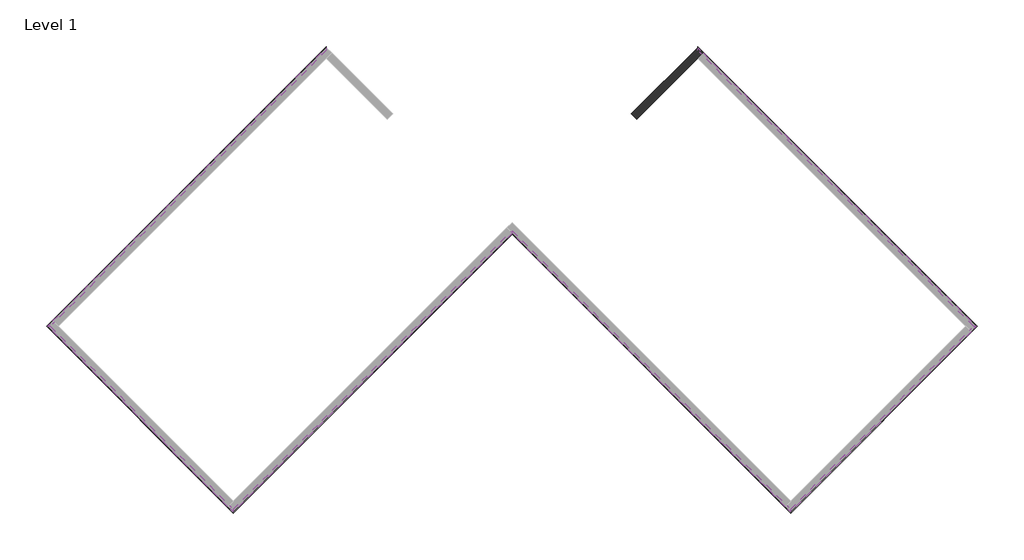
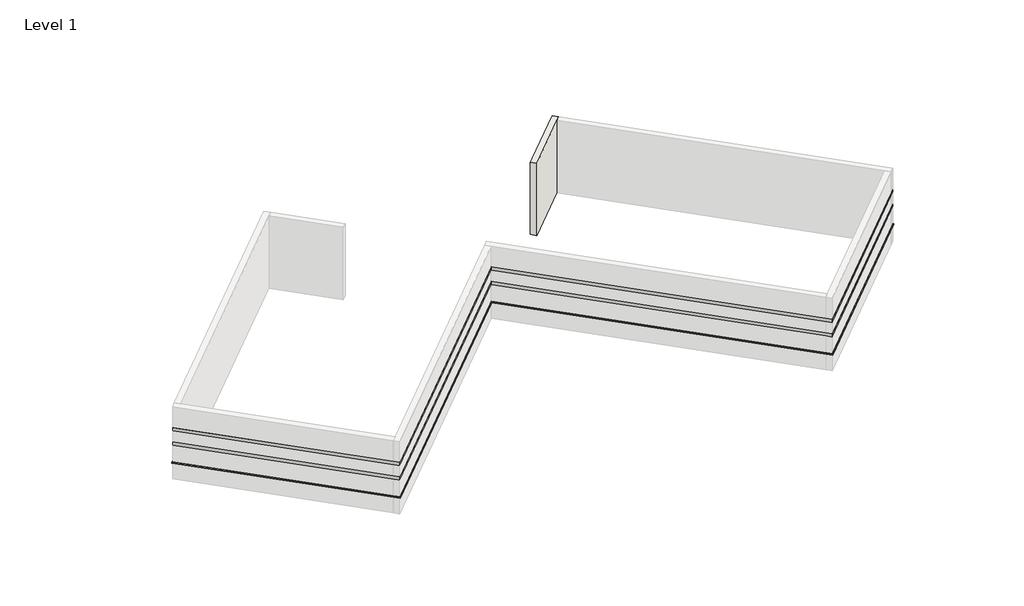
# One storey, part 2 of 2: 18 proxies, 1 wall.
"""IFC4 building model written with IfcOpenShell, lengths in millimetres."""

from ifc_helpers import new_model, si_unit, frame, origin, place, context, project, spatial, polyline, circle_curve, faceted_brep, element, save
from ifc_brep_helpers import plane_surface, cylinder_surface, revolved_surface, advanced_brep

model = new_model("IFC4")

# Units and contexts
model_context = context("Model", 3, world=origin())
ifc_project = project(units=[si_unit("LENGTHUNIT", "METRE", prefix="MILLI")], contexts=[model_context])

# Site, building, storey
site = spatial("IfcSite", under=ifc_project)
building = spatial("IfcBuilding", under=site)
storey = spatial("IfcBuildingStorey", under=building, Name="Level 1", Elevation=0.0)

# Proxies
placement = place(None, origin())
element("IfcBuildingElementProxy", 1, Name="Wall Sweeps", at=placement, inside=storey, context=model_context, shape_type="Brep", body=[
    faceted_brep([(5753.0175119, 11443.3655905, 1085.85), (5753.0175119, 11573.5793042, 1085.85), (5753.0175119, 11622.9707129, 1041.4), (5753.0175119, 11622.9707129, 1016.0), (5753.0175119, 11443.3655905, 1016.0), (18554.3726125, -1357.9895101, 1085.85), (18554.3726125, -1357.9895101, 1016.0), (18733.9777349, -1357.9895101, 1016.0), (18733.9777349, -1357.9895101, 1041.4), (18684.5863263, -1357.9895101, 1085.85), (5937.1127624, 11259.27034, 1085.85), (5937.1127624, 11259.27034, 1016.0)], [[[0, 1, 2, 3, 4]], [[5, 6, 7, 8, 9]], [[1, 0, 10, 5, 9]], [[2, 1, 9, 8]], [[3, 2, 8, 7]], [[4, 3, 7, 6, 11]], [[0, 4, 11, 6, 5, 10]]]),
])
element("IfcBuildingElementProxy", 2, Name="Wall Sweeps", at=placement, inside=storey, context=model_context, shape_type="Brep", body=[
    faceted_brep([(5753.0175119, 11573.5793042, 2336.8), (5753.0175119, 11573.5793042, 2133.6), (5753.0175119, 11443.3655905, 2133.6), (5753.0175119, 11443.3655905, 2336.8), (18684.5863263, -1357.9895101, 2336.8), (18554.3726125, -1357.9895101, 2336.8), (18554.3726125, -1357.9895101, 2133.6), (18684.5863263, -1357.9895101, 2133.6), (6002.2196193, 11324.3771969, 2336.8), (6002.2196193, 11324.3771969, 2133.6), (5937.1127624, 11259.27034, 2133.6), (5937.1127624, 11259.27034, 2336.8)], [[[0, 1, 2, 3]], [[4, 5, 6, 7]], [[1, 0, 8, 4, 7, 9]], [[2, 1, 9, 7, 6, 10]], [[3, 2, 10, 6, 5, 11]], [[0, 3, 11, 5, 4, 8]]]),
])
element("IfcBuildingElementProxy", 3, Name="Wall Sweeps", at=placement, inside=storey, context=model_context, shape_type="Brep", body=[
    faceted_brep([(5753.0175119, 11573.5793042, 3251.2), (5753.0175119, 11573.5793042, 3048.0), (5753.0175119, 11443.3655905, 3048.0), (5753.0175119, 11443.3655905, 3251.2), (18684.5863263, -1357.9895101, 3251.2), (18554.3726125, -1357.9895101, 3251.2), (18554.3726125, -1357.9895101, 3048.0), (18684.5863263, -1357.9895101, 3048.0), (6002.2196193, 11324.3771969, 3251.2), (6002.2196193, 11324.3771969, 3048.0), (5937.1127624, 11259.27034, 3048.0), (5937.1127624, 11259.27034, 3251.2)], [[[0, 1, 2, 3]], [[4, 5, 6, 7]], [[1, 0, 8, 4, 7, 9]], [[2, 1, 9, 7, 6, 10]], [[3, 2, 10, 6, 5, 11]], [[0, 3, 11, 5, 4, 8]]]),
])
element("IfcBuildingElementProxy", 4, Name="Wall Sweeps", at=placement, inside=storey, context=model_context, shape_type="Brep", body=[
    faceted_brep([(18554.3726125, -1357.9895101, 1085.85), (18684.5863263, -1357.9895101, 1085.85), (18733.9777349, -1357.9895101, 1041.4), (18733.9777349, -1357.9895101, 1016.0), (18554.3726125, -1357.9895101, 1016.0), (10063.54045, -9848.8216726, 1085.85), (10063.54045, -9848.8216726, 1016.0), (10063.54045, -10028.426795, 1016.0), (10063.54045, -10028.426795, 1041.4), (10063.54045, -9979.0353863, 1085.85), (18370.277362, -1542.0847606, 1085.85), (18370.277362, -1542.0847606, 1016.0)], [[[0, 1, 2, 3, 4]], [[5, 6, 7, 8, 9]], [[1, 0, 10, 5, 9]], [[2, 1, 9, 8]], [[3, 2, 8, 7]], [[4, 3, 7, 6, 11]], [[0, 4, 11, 6, 5, 10]]]),
])
element("IfcBuildingElementProxy", 5, Name="Wall Sweeps", at=placement, inside=storey, context=model_context, shape_type="Brep", body=[
    faceted_brep([(18684.5863263, -1357.9895101, 2336.8), (18684.5863263, -1357.9895101, 2133.6), (18554.3726125, -1357.9895101, 2133.6), (18554.3726125, -1357.9895101, 2336.8), (10063.54045, -9979.0353863, 2336.8), (10063.54045, -9848.8216726, 2336.8), (10063.54045, -9848.8216726, 2133.6), (10063.54045, -9979.0353863, 2133.6), (18435.3842189, -1607.1916175, 2336.8), (18435.3842189, -1607.1916175, 2133.6), (18370.277362, -1542.0847606, 2133.6), (18370.277362, -1542.0847606, 2336.8)], [[[0, 1, 2, 3]], [[4, 5, 6, 7]], [[1, 0, 8, 4, 7, 9]], [[2, 1, 9, 7, 6, 10]], [[3, 2, 10, 6, 5, 11]], [[0, 3, 11, 5, 4, 8]]]),
])
element("IfcBuildingElementProxy", 6, Name="Wall Sweeps", at=placement, inside=storey, context=model_context, shape_type="Brep", body=[
    faceted_brep([(18684.5863263, -1357.9895101, 3251.2), (18684.5863263, -1357.9895101, 3048.0), (18554.3726125, -1357.9895101, 3048.0), (18554.3726125, -1357.9895101, 3251.2), (10063.54045, -9979.0353863, 3251.2), (10063.54045, -9848.8216726, 3251.2), (10063.54045, -9848.8216726, 3048.0), (10063.54045, -9979.0353863, 3048.0), (18435.3842189, -1607.1916175, 3251.2), (18435.3842189, -1607.1916175, 3048.0), (18370.277362, -1542.0847606, 3048.0), (18370.277362, -1542.0847606, 3251.2)], [[[0, 1, 2, 3]], [[4, 5, 6, 7]], [[1, 0, 8, 4, 7, 9]], [[2, 1, 9, 7, 6, 10]], [[3, 2, 10, 6, 5, 11]], [[0, 3, 11, 5, 4, 8]]]),
])
element("IfcBuildingElementProxy", 7, Name="Wall Sweeps", at=placement, inside=storey, context=model_context, shape_type="Brep", body=[
    faceted_brep([(10063.54045, -9848.8216726, 1085.85), (10063.54045, -9979.0353863, 1085.85), (10063.54045, -10028.426795, 1041.4), (10063.54045, -10028.426795, 1016.0), (10063.54045, -9848.8216726, 1016.0), (-2868.0283643, 3082.7471418, 1085.85), (-2868.0283643, 3082.7471418, 1016.0), (-2868.0283643, 2903.1420194, 1016.0), (-2868.0283643, 2903.1420194, 1041.4), (-2868.0283643, 2952.533428, 1085.85), (9879.4451996, -9664.7264221, 1085.85), (9879.4451996, -9664.7264221, 1016.0)], [[[0, 1, 2, 3, 4]], [[5, 6, 7, 8, 9]], [[1, 0, 10, 5, 9]], [[2, 1, 9, 8]], [[3, 2, 8, 7]], [[4, 3, 7, 6, 11]], [[0, 4, 11, 6, 5, 10]]]),
])
element("IfcBuildingElementProxy", 8, Name="Wall Sweeps", at=placement, inside=storey, context=model_context, shape_type="Brep", body=[
    faceted_brep([(10063.54045, -9979.0353863, 2336.8), (10063.54045, -9979.0353863, 2133.6), (10063.54045, -9848.8216726, 2133.6), (10063.54045, -9848.8216726, 2336.8), (-2868.0283643, 2952.533428, 2336.8), (-2868.0283643, 3082.7471418, 2336.8), (-2868.0283643, 3082.7471418, 2133.6), (-2868.0283643, 2952.533428, 2133.6), (9814.3383427, -9729.833279, 2336.8), (9814.3383427, -9729.833279, 2133.6), (9879.4451996, -9664.7264221, 2133.6), (9879.4451996, -9664.7264221, 2336.8)], [[[0, 1, 2, 3]], [[4, 5, 6, 7]], [[1, 0, 8, 4, 7, 9]], [[2, 1, 9, 7, 6, 10]], [[3, 2, 10, 6, 5, 11]], [[0, 3, 11, 5, 4, 8]]]),
])
element("IfcBuildingElementProxy", 9, Name="Wall Sweeps", at=placement, inside=storey, context=model_context, shape_type="Brep", body=[
    faceted_brep([(10063.54045, -9979.0353863, 3251.2), (10063.54045, -9979.0353863, 3048.0), (10063.54045, -9848.8216726, 3048.0), (10063.54045, -9848.8216726, 3251.2), (-2868.0283643, 2952.533428, 3251.2), (-2868.0283643, 3082.7471418, 3251.2), (-2868.0283643, 3082.7471418, 3048.0), (-2868.0283643, 2952.533428, 3048.0), (9814.3383427, -9729.833279, 3251.2), (9814.3383427, -9729.833279, 3048.0), (9879.4451996, -9664.7264221, 3048.0), (9879.4451996, -9664.7264221, 3251.2)], [[[0, 1, 2, 3]], [[4, 5, 6, 7]], [[1, 0, 8, 4, 7, 9]], [[2, 1, 9, 7, 6, 10]], [[3, 2, 10, 6, 5, 11]], [[0, 3, 11, 5, 4, 8]]]),
])
element("IfcBuildingElementProxy", 10, Name="Wall Sweeps", at=placement, inside=storey, context=model_context, shape_type="Brep", body=[
    faceted_brep([(-2868.0283643, 3082.7471418, 1085.85), (-2868.0283643, 2952.533428, 1085.85), (-2868.0283643, 2903.1420194, 1041.4), (-2868.0283643, 2903.1420194, 1016.0), (-2868.0283643, 3082.7471418, 1016.0), (-15799.5971786, -9848.8216726, 1085.85), (-15799.5971786, -9848.8216726, 1016.0), (-15799.5971786, -10028.426795, 1016.0), (-15799.5971786, -10028.426795, 1041.4), (-15799.5971786, -9979.0353863, 1085.85), (-2933.1352212, 3017.6402849, 1085.85), (-2933.1352212, 3017.6402849, 1016.0)], [[[0, 1, 2, 3, 4]], [[5, 6, 7, 8, 9]], [[1, 0, 10, 5, 9]], [[2, 1, 9, 8]], [[3, 2, 8, 7]], [[4, 3, 7, 6, 11]], [[0, 4, 11, 6, 5, 10]]]),
])
element("IfcBuildingElementProxy", 11, Name="Wall Sweeps", at=placement, inside=storey, context=model_context, shape_type="Brep", body=[
    faceted_brep([(-2868.0283643, 2952.533428, 2336.8), (-2868.0283643, 2952.533428, 2133.6), (-2868.0283643, 3082.7471418, 2133.6), (-2868.0283643, 3082.7471418, 2336.8), (-15799.5971786, -9979.0353863, 2336.8), (-15799.5971786, -9848.8216726, 2336.8), (-15799.5971786, -9848.8216726, 2133.6), (-15799.5971786, -9979.0353863, 2133.6), (-2933.1352212, 3017.6402849, 2133.6), (-2933.1352212, 3017.6402849, 2336.8)], [[[0, 1, 2, 3]], [[4, 5, 6, 7]], [[1, 0, 4, 7]], [[2, 1, 7, 6, 8]], [[3, 2, 8, 6, 5, 9]], [[0, 3, 9, 5, 4]]]),
])
element("IfcBuildingElementProxy", 12, Name="Wall Sweeps", at=placement, inside=storey, context=model_context, shape_type="Brep", body=[
    faceted_brep([(-2868.0283643, 2952.533428, 3251.2), (-2868.0283643, 2952.533428, 3048.0), (-2868.0283643, 3082.7471418, 3048.0), (-2868.0283643, 3082.7471418, 3251.2), (-15799.5971786, -9979.0353863, 3251.2), (-15799.5971786, -9848.8216726, 3251.2), (-15799.5971786, -9848.8216726, 3048.0), (-15799.5971786, -9979.0353863, 3048.0), (-2933.1352212, 3017.6402849, 3048.0), (-2933.1352212, 3017.6402849, 3251.2)], [[[0, 1, 2, 3]], [[4, 5, 6, 7]], [[1, 0, 4, 7]], [[2, 1, 7, 6, 8]], [[3, 2, 8, 6, 5, 9]], [[0, 3, 9, 5, 4]]]),
])
element("IfcBuildingElementProxy", 13, Name="Wall Sweeps", at=placement, inside=storey, context=model_context, shape_type="Brep", body=[
    faceted_brep([(-15799.5971786, -9848.8216726, 1085.85), (-15799.5971786, -9979.0353863, 1085.85), (-15799.5971786, -10028.426795, 1041.4), (-15799.5971786, -10028.426795, 1016.0), (-15799.5971786, -9848.8216726, 1016.0), (-24290.4293411, -1357.9895101, 1085.85), (-24290.4293411, -1357.9895101, 1016.0), (-24470.0344635, -1357.9895101, 1016.0), (-24470.0344635, -1357.9895101, 1041.4), (-24420.6430549, -1357.9895101, 1085.85), (-15983.6924291, -9664.7264221, 1085.85), (-15983.6924291, -9664.7264221, 1016.0)], [[[0, 1, 2, 3, 4]], [[5, 6, 7, 8, 9]], [[1, 0, 10, 5, 9]], [[2, 1, 9, 8]], [[3, 2, 8, 7]], [[4, 3, 7, 6, 11]], [[0, 4, 11, 6, 5, 10]]]),
])
element("IfcBuildingElementProxy", 14, Name="Wall Sweeps", at=placement, inside=storey, context=model_context, shape_type="Brep", body=[
    faceted_brep([(-15799.5971786, -9979.0353863, 2336.8), (-15799.5971786, -9979.0353863, 2133.6), (-15799.5971786, -9848.8216726, 2133.6), (-15799.5971786, -9848.8216726, 2336.8), (-24420.6430549, -1357.9895101, 2336.8), (-24290.4293411, -1357.9895101, 2336.8), (-24290.4293411, -1357.9895101, 2133.6), (-24420.6430549, -1357.9895101, 2133.6), (-16048.799286, -9729.833279, 2336.8), (-16048.799286, -9729.833279, 2133.6), (-15983.6924291, -9664.7264221, 2133.6), (-15983.6924291, -9664.7264221, 2336.8)], [[[0, 1, 2, 3]], [[4, 5, 6, 7]], [[1, 0, 8, 4, 7, 9]], [[2, 1, 9, 7, 6, 10]], [[3, 2, 10, 6, 5, 11]], [[0, 3, 11, 5, 4, 8]]]),
])
element("IfcBuildingElementProxy", 15, Name="Wall Sweeps", at=placement, inside=storey, context=model_context, shape_type="Brep", body=[
    faceted_brep([(-15799.5971786, -9979.0353863, 3251.2), (-15799.5971786, -9979.0353863, 3048.0), (-15799.5971786, -9848.8216726, 3048.0), (-15799.5971786, -9848.8216726, 3251.2), (-24420.6430549, -1357.9895101, 3251.2), (-24290.4293411, -1357.9895101, 3251.2), (-24290.4293411, -1357.9895101, 3048.0), (-24420.6430549, -1357.9895101, 3048.0), (-16048.799286, -9729.833279, 3251.2), (-16048.799286, -9729.833279, 3048.0), (-15983.6924291, -9664.7264221, 3048.0), (-15983.6924291, -9664.7264221, 3251.2)], [[[0, 1, 2, 3]], [[4, 5, 6, 7]], [[1, 0, 8, 4, 7, 9]], [[2, 1, 9, 7, 6, 10]], [[3, 2, 10, 6, 5, 11]], [[0, 3, 11, 5, 4, 8]]]),
])
element("IfcBuildingElementProxy", 16, Name="Wall Sweeps", at=placement, inside=storey, context=model_context, shape_type="Brep", body=[
    faceted_brep([(-24290.4293411, -1357.9895101, 1085.85), (-24420.6430549, -1357.9895101, 1085.85), (-24470.0344635, -1357.9895101, 1041.4), (-24470.0344635, -1357.9895101, 1016.0), (-24290.4293411, -1357.9895101, 1016.0), (-11489.0742405, 11443.3655905, 1085.85), (-11489.0742405, 11443.3655905, 1016.0), (-11489.0742405, 11622.9707129, 1016.0), (-11489.0742405, 11622.9707129, 1041.4), (-11489.0742405, 11573.5793042, 1085.85), (-24106.3340906, -1173.8942596, 1085.85), (-24106.3340906, -1173.8942596, 1016.0)], [[[0, 1, 2, 3, 4]], [[5, 6, 7, 8, 9]], [[1, 0, 10, 5, 9]], [[2, 1, 9, 8]], [[3, 2, 8, 7]], [[4, 3, 7, 6, 11]], [[0, 4, 11, 6, 5, 10]]]),
])
element("IfcBuildingElementProxy", 17, Name="Wall Sweeps", at=placement, inside=storey, context=model_context, shape_type="Brep", body=[
    faceted_brep([(-24420.6430549, -1357.9895101, 2336.8), (-24420.6430549, -1357.9895101, 2133.6), (-24290.4293411, -1357.9895101, 2133.6), (-24290.4293411, -1357.9895101, 2336.8), (-11489.0742405, 11573.5793042, 2336.8), (-11489.0742405, 11443.3655905, 2336.8), (-11489.0742405, 11443.3655905, 2133.6), (-11489.0742405, 11573.5793042, 2133.6), (-24171.4409475, -1108.7874027, 2336.8), (-24171.4409475, -1108.7874027, 2133.6), (-24106.3340906, -1173.8942596, 2133.6), (-24106.3340906, -1173.8942596, 2336.8)], [[[0, 1, 2, 3]], [[4, 5, 6, 7]], [[1, 0, 8, 4, 7, 9]], [[2, 1, 9, 7, 6, 10]], [[3, 2, 10, 6, 5, 11]], [[0, 3, 11, 5, 4, 8]]]),
])
element("IfcBuildingElementProxy", 18, Name="Wall Sweeps", at=placement, inside=storey, context=model_context, shape_type="Brep", body=[
    faceted_brep([(-24420.6430549, -1357.9895101, 3251.2), (-24420.6430549, -1357.9895101, 3048.0), (-24290.4293411, -1357.9895101, 3048.0), (-24290.4293411, -1357.9895101, 3251.2), (-11489.0742405, 11573.5793042, 3251.2), (-11489.0742405, 11443.3655905, 3251.2), (-11489.0742405, 11443.3655905, 3048.0), (-11489.0742405, 11573.5793042, 3048.0), (-24171.4409475, -1108.7874027, 3251.2), (-24171.4409475, -1108.7874027, 3048.0), (-24106.3340906, -1173.8942596, 3048.0), (-24106.3340906, -1173.8942596, 3251.2)], [[[0, 1, 2, 3]], [[4, 5, 6, 7]], [[1, 0, 8, 4, 7, 9]], [[2, 1, 9, 7, 6, 10]], [[3, 2, 10, 6, 5, 11]], [[0, 3, 11, 5, 4, 8]]]),
])

# Wall
element("IfcWall", 19, ObjectType="Exterior - Split Face and CMU on Mtl. Stud", at=placement, inside=storey, context=model_context, shape_type="AdvancedBrep", body=[
    advanced_brep(
    [(2921.9555443, 8244.1131219, 4572.0), (5753.0175119, 11075.1750895, 4572.0), (6002.2196193, 11324.3771969, 4572.0), (5753.0175119, 11573.5793042, 4572.0), (2926.4294954, 8746.9912878, 4572.0), (2677.2250436, 8497.7868359, 4572.0), (2921.9555443, 8244.1131219, 0.0), (5753.0175119, 11075.1750895, 0.0), (6002.2196193, 11324.3771969, 0.0), (6002.2196193, 11324.3771969, 1016.0), (5937.1127624, 11259.27034, 1016.0), (5937.1127624, 11259.27034, 1085.85), (6002.2196193, 11324.3771969, 1085.85), (6002.2196193, 11324.3771969, 2133.6), (5937.1127624, 11259.27034, 2133.6), (5937.1127624, 11259.27034, 2336.8), (6002.2196193, 11324.3771969, 2336.8), (6002.2196193, 11324.3771969, 3048.0), (5937.1127624, 11259.27034, 3048.0), (5937.1127624, 11259.27034, 3251.2), (6002.2196193, 11324.3771969, 3251.2), (5753.0175119, 11573.5793042, 3251.2), (2926.4294954, 8746.9912878, 3251.2), (2861.3220456, 8681.8838379, 3251.2), (2861.3220456, 8681.8838379, 3048.0), (2926.4294954, 8746.9912878, 3048.0), (5753.0175119, 11573.5793042, 3048.0), (5753.0175119, 11573.5793042, 2336.8), (2926.4294954, 8746.9912878, 2336.8), (2861.3220456, 8681.8838379, 2336.8), (2861.3220456, 8681.8838379, 2133.6), (2926.4294954, 8746.9912878, 2133.6), (5753.0175119, 11573.5793042, 2133.6), (5753.0175119, 11573.5793042, 1085.85), (2926.4294954, 8746.9912878, 1085.85), (2861.3220456, 8681.8838379, 1085.85), (2861.3220456, 8681.8838379, 1016.0), (2926.4294954, 8746.9912878, 1016.0), (5753.0175119, 11573.5793042, 1016.0), (5753.0175119, 11573.5793042, 0.0), (2926.4294954, 8746.9912878, 0.0), (2677.2250436, 8497.7868359, 0.0), (2742.2400511, 8432.5881297, 0.0), (5818.1243688, 11508.4724474, 0.0), (5753.0175119, 11443.3655905, 1085.85), (2926.3399919, 8616.6880705, 1085.85), (2926.3399919, 8616.6880705, 1016.0), (5753.0175119, 11443.3655905, 1016.0), (2926.3399919, 8616.6880705, 2133.6), (5753.0175119, 11443.3655905, 2133.6), (2926.3399919, 8616.6880705, 2336.8), (5753.0175119, 11443.3655905, 2336.8), (2926.3399919, 8616.6880705, 3048.0), (5753.0175119, 11443.3655905, 3048.0), (2926.3399919, 8616.6880705, 3251.2), (5753.0175119, 11443.3655905, 3251.2)],
    [
        (0, 1),
        (1, 2),
        (2, 3),
        (3, 4),
        (4, 5),
        (5, 0, circle_curve(frame((-2868.0283643, 2903.1420194, 4572.0), z_axis=(0.0, 0.0, -1.0), x_axis=(1.0, 0.0, 0.0)), 7877.175)),
        (6, 7),
        (7, 8),
        (8, 9),
        (9, 10),
        (10, 11),
        (11, 12),
        (12, 13),
        (13, 14),
        (14, 15),
        (15, 16),
        (16, 17),
        (17, 18),
        (18, 19),
        (19, 20),
        (20, 2),
        (0, 6),
        (3, 21),
        (21, 22),
        (22, 23),
        (23, 24),
        (24, 25),
        (25, 26),
        (26, 27),
        (27, 28),
        (28, 29),
        (29, 30),
        (30, 31),
        (31, 32),
        (32, 33),
        (33, 34),
        (34, 35),
        (35, 36),
        (36, 37),
        (37, 38),
        (38, 39),
        (39, 40),
        (40, 41),
        (41, 5),
        (6, 42, circle_curve(frame((-2868.0283643, 2903.1420194, 0.0), z_axis=(0.0, 0.0, 1.0), x_axis=(1.0, 0.0, 0.0)), 7877.175)),
        (42, 43),
        (43, 8),
        (20, 21),
        (43, 39),
        (38, 9),
        (12, 33),
        (32, 13),
        (16, 27),
        (26, 17),
        (41, 42, circle_curve(frame((-2868.0283643, 2903.1420194, 0.0), z_axis=(0.0, 0.0, -1.0), x_axis=(1.0, 0.0, 0.0)), 7877.175)),
        (44, 45),
        (45, 35, circle_curve(frame((-2868.0283643, 2903.1420194, 1085.85), z_axis=(0.0, 0.0, 1.0), x_axis=(-0.7040995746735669, 0.7101012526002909, 0.0)), 8137.525)),
        (11, 44),
        (46, 47),
        (47, 10),
        (36, 46, circle_curve(frame((-2868.0283643, 2903.1420194, 1016.0), z_axis=(0.0, 0.0, -1.0), x_axis=(-0.7040995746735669, 0.7101012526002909, 0.0)), 8137.525)),
        (45, 46),
        (44, 47),
        (48, 49),
        (49, 14),
        (30, 48, circle_curve(frame((-2868.0283643, 2903.1420194, 2133.6), z_axis=(0.0, 0.0, -1.0), x_axis=(-0.7040995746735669, 0.7101012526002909, 0.0)), 8137.525)),
        (50, 48),
        (29, 50, circle_curve(frame((-2868.0283643, 2903.1420194, 2336.8), z_axis=(0.0, 0.0, -1.0), x_axis=(-0.7040995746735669, 0.7101012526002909, 0.0)), 8137.525)),
        (51, 50),
        (15, 51),
        (51, 49),
        (52, 53),
        (53, 18),
        (24, 52, circle_curve(frame((-2868.0283643, 2903.1420194, 3048.0), z_axis=(0.0, 0.0, -1.0), x_axis=(-0.7040995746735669, 0.7101012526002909, 0.0)), 8137.525)),
        (54, 52),
        (23, 54, circle_curve(frame((-2868.0283643, 2903.1420194, 3251.2), z_axis=(0.0, 0.0, -1.0), x_axis=(-0.7040995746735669, 0.7101012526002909, 0.0)), 8137.525)),
        (55, 54),
        (19, 55),
        (55, 53),
    ],
    [
        plane_surface(frame((5877.6185656, 11199.7761432, 4572.0), z_axis=(0.0, 0.0, 1.0), x_axis=(-0.707106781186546, 0.7071067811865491, 0.0))),
        plane_surface(frame((2984.8535626, 8307.0111402, 0.0), z_axis=(0.707106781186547, -0.7071067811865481, 0.0), x_axis=(0.7071067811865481, 0.707106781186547, 0.0))),
        plane_surface(frame((2735.6514552, 8556.2132476, 0.0), z_axis=(-0.707106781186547, 0.7071067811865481, 0.0), x_axis=(-0.7071067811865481, -0.707106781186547, 0.0))),
        plane_surface(frame((3050.2065213, 8372.3640989, 0.0), z_axis=(0.0, 0.0, -1.0000000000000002), x_axis=(-0.7071067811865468, 0.7071067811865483, 0.0))),
        plane_surface(frame((5753.0175119, 11573.5793042, 0.0), z_axis=(0.7071067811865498, 0.7071067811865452, 0.0), x_axis=(-0.7071067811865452, 0.7071067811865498, 0.0))),
        revolved_surface(polyline([(5009.146635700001, 2903.1420194, 0.0), (5009.146635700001, 2903.1420194, 4572.0)]), (-2868.0283643, 2903.1420194, 0.0), (0.0, 0.0, -1.0)),
        plane_surface(frame((0.0, 0.0, 0.0), z_axis=(0.0, 0.0, -1.0), x_axis=(1.0, 0.0, 0.0))),
        plane_surface(frame((-2868.0283643, 2903.1420194, 1085.85), z_axis=(0.0, 0.0, -1.0), x_axis=(-0.7040995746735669, 0.7101012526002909, 0.0))),
        plane_surface(frame((-2868.0283643, 2903.1420194, 1016.0), z_axis=(0.0, 0.0, 1.0), x_axis=(-0.7040995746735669, 0.7101012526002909, 0.0))),
        cylinder_surface(frame((-2868.0283643, 2903.1420194, 1016.0), z_axis=(0.0, 0.0, -1.0), x_axis=(-0.7040995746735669, 0.7101012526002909, 0.0)), 8137.525),
        plane_surface(frame((2926.3399919, 8616.6880705, 1016.0), z_axis=(-0.7071067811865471, 0.707106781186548, 0.0), x_axis=(0.707106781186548, 0.7071067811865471, 0.0))),
        plane_surface(frame((5753.0175119, 11443.3655905, 1016.0), z_axis=(0.70710678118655, 0.7071067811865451, 0.0), x_axis=(0.7071067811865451, -0.70710678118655, 0.0))),
        plane_surface(frame((-2868.0283643, 2903.1420194, 2133.6), z_axis=(0.0, 0.0, 1.0), x_axis=(-0.7040995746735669, 0.7101012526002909, 0.0))),
        cylinder_surface(frame((-2868.0283643, 2903.1420194, 2133.6), z_axis=(0.0, 0.0, -1.0), x_axis=(-0.7040995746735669, 0.7101012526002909, 0.0)), 8137.525),
        plane_surface(frame((-2868.0283643, 2903.1420194, 2336.8), z_axis=(0.0, 0.0, -1.0), x_axis=(-0.7040995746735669, 0.7101012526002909, 0.0))),
        plane_surface(frame((2926.3399919, 8616.6880705, 2133.6), z_axis=(-0.7071067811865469, 0.7071067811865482, 0.0), x_axis=(0.7071067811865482, 0.7071067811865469, 0.0))),
        plane_surface(frame((5753.0175119, 11443.3655905, 2133.6), z_axis=(0.7071067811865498, 0.7071067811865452, 0.0), x_axis=(0.7071067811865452, -0.7071067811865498, 0.0))),
        plane_surface(frame((-2868.0283643, 2903.1420194, 3048.0), z_axis=(0.0, 0.0, 1.0), x_axis=(-0.7040995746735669, 0.7101012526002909, 0.0))),
        cylinder_surface(frame((-2868.0283643, 2903.1420194, 3048.0), z_axis=(0.0, 0.0, -1.0), x_axis=(-0.7040995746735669, 0.7101012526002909, 0.0)), 8137.525),
        plane_surface(frame((-2868.0283643, 2903.1420194, 3251.2), z_axis=(0.0, 0.0, -1.0), x_axis=(-0.7040995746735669, 0.7101012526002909, 0.0))),
        plane_surface(frame((2926.3399919, 8616.6880705, 3048.0), z_axis=(-0.7071067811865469, 0.7071067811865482, 0.0), x_axis=(0.7071067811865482, 0.7071067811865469, 0.0))),
        plane_surface(frame((5753.0175119, 11443.3655905, 3048.0), z_axis=(0.7071067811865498, 0.7071067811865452, 0.0), x_axis=(0.7071067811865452, -0.7071067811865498, 0.0))),
    ],
    [
        (0, [[1, 2, 3, 4, 5, 6]]),
        (1, [[7, 8, 9, 10, 11, 12, 13, 14, 15, 16, 17, 18, 19, 20, 21, -2, -1, 22]]),
        (2, [[-5, -4, 23, 24, 25, 26, 27, 28, 29, 30, 31, 32, 33, 34, 35, 36, 37, 38, 39, 40, 41, 42, 43, 44]]),
        (3, [[-8, -7, 45, 46, 47]]),
        (4, [[-3, -21, 48, -23]]),
        (4, [[-47, 49, -41, 50, -9]]),
        (4, [[51, -35, 52, -13]]),
        (4, [[53, -29, 54, -17]]),
        (5, [[-22, -6, -44, 55, -45]]),
        (6, [[-43, -42, -49, -46, -55]]),
        (7, [[56, 57, -37, -36, -51, -12, 58]]),
        (8, [[59, 60, -10, -50, -40, -39, 61]]),
        (9, [[62, -61, -38, -57]]),
        (10, [[-56, 63, -59, -62]]),
        (11, [[-63, -58, -11, -60]]),
        (12, [[64, 65, -14, -52, -34, -33, 66]]),
        (13, [[67, -66, -32, 68]]),
        (14, [[69, -68, -31, -30, -53, -16, 70]]),
        (15, [[-64, -67, -69, 71]]),
        (16, [[-71, -70, -15, -65]]),
        (17, [[72, 73, -18, -54, -28, -27, 74]]),
        (18, [[75, -74, -26, 76]]),
        (19, [[77, -76, -25, -24, -48, -20, 78]]),
        (20, [[-72, -75, -77, 79]]),
        (21, [[-79, -78, -19, -73]]),
    ],
),
])

save(model, "model.ifc")
